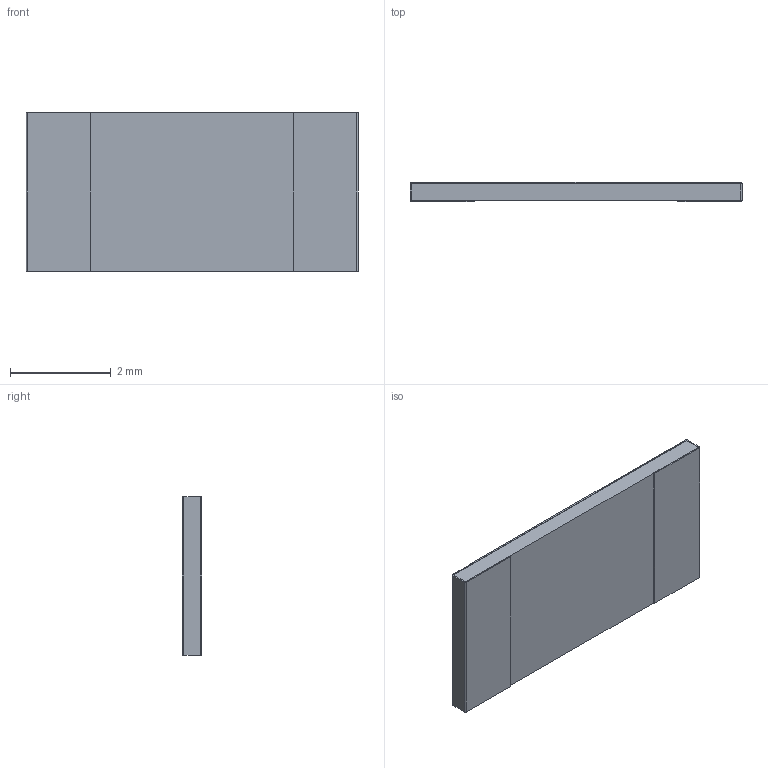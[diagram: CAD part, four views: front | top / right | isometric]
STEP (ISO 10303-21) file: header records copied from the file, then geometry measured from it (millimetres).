
FILE_DESCRIPTION(/* description */ (''),/* implementation_level */ '2;1');
FILE_NAME(/* name */ 'C:\Users\Public\Documents\Autodesk\Inventor LT 2014\Workspace\Vishay\STEP Files\PCNM2512.stp',/* time_stamp */ '2019-10-20T23:27:01-05:00',/* author */ ('Neil'),/* organization */ (''),/* preprocessor_version */ 'ST-DEVELOPER v15.2',/* originating_system */ 'Autodesk Inventor LT ',/* authorisation */ '');
FILE_SCHEMA (('AUTOMOTIVE_DESIGN { 1 0 10303 214 3 1 1 }'));
Length unit declared in the file: inch
Products named in the file (1): PCNM2512
Bounding box: 6.58 x 0.39 x 3.15 mm (x, y, z)
Volume: 7.7 mm3; surface area: 139.3 mm2
Topology: 6 solids, 6 shells, 82 faces, 210 edges, 140 vertices
Faces by surface type: plane 78, cylinder 4
Entity records: 2491 total; most frequent: CARTESIAN_POINT 433, ORIENTED_EDGE 420, DIRECTION 384, EDGE_CURVE 210, LINE 202, VECTOR 202, VERTEX_POINT 140, AXIS2_PLACEMENT_3D 91
